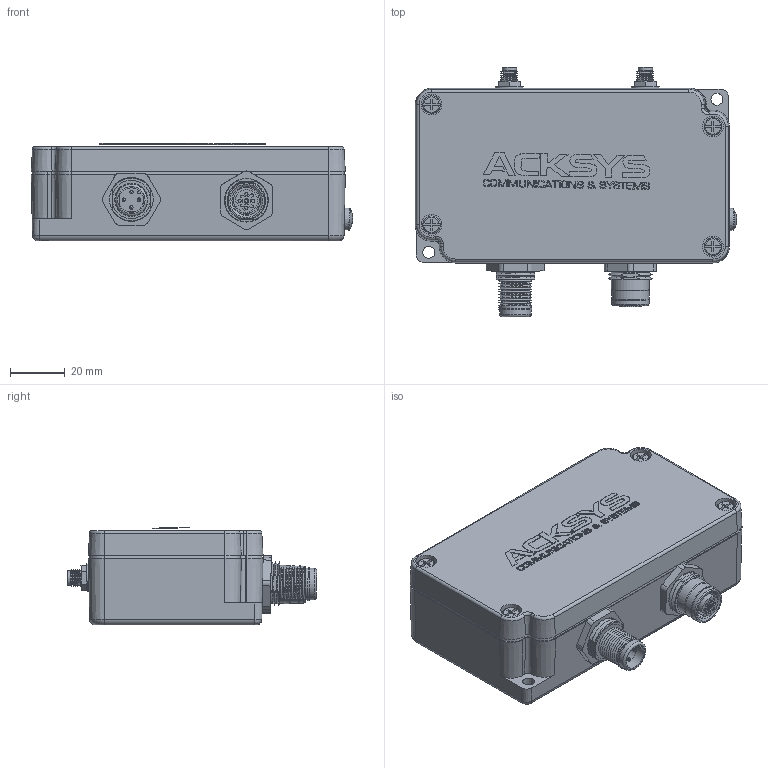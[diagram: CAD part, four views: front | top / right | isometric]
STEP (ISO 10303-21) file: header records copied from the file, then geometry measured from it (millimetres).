
FILE_DESCRIPTION(/* description */ (''),/* implementation_level */ '2;1');
FILE_NAME(/* name */ 'E:\Documents\ETUDES\AirXroad_4P\test3_AirXroad4p.stp',/* time_stamp */ '2022-05-09T10:29:45+02:00',/* author */ ('amekadmini'),/* organization */ ('Open CASCADE'),/* preprocessor_version */ 'ST-DEVELOPER v18',/* originating_system */ 'AutoCAD Mechanical',/* authorisation */ 'Unknown');
FILE_SCHEMA (('AUTOMOTIVE_DESIGN { 1 0 10303 214 3 1 1 }'));
Products named in the file (8): Product; TR Fastenings Ltd-M4X4mm; A$C7c6646d4; A$C4b66660f; test; ACKSYS; A$C1A3A239B; RPSMA
Assembly tree (8 placements, depth 3):
  Product
    A$C1A3A239B  x2
      RPSMA
    TR Fastenings Ltd-M4X4mm
    A$C7c6646d4
    A$C4b66660f
    test
      ACKSYS
Bounding box: 117.76 x 91.32 x 35.75 mm (x, y, z)
Volume: 89236.5 mm3; surface area: 65903.4 mm2
Topology: 70 solids, 72 shells, 1831 faces, 5003 edges, 3334 vertices
Faces by surface type: plane 1350, cone 228, cylinder 171, bspline 43, torus 31, sphere 8
Full cylindrical faces by diameter (mm): 1 x2, 1.2 x17, 1.68 x1, 2.5 x2, 3 x2, 3.242 x6, 3.5 x2, 3.52 x4, 3.545 x4, 4 x5, 4.6 x8, 4.75 x4, 5 x2, 5.3 x2, 6.955 x1, 7.6 x4, 7.9 x2, 9 x1, 9.574 x3, 10.2 x2, 11.574 x2, 12.138 x1, 13.333 x1, 13.677 x2, 14 x4, 14.221 x2, 16 x2
Entity records: 56613 total; most frequent: CARTESIAN_POINT 11355, ORIENTED_EDGE 9605, DIRECTION 8994, EDGE_CURVE 4803, LINE 3702, VECTOR 3702, VERTEX_POINT 3208, AXIS2_PLACEMENT_3D 2646
